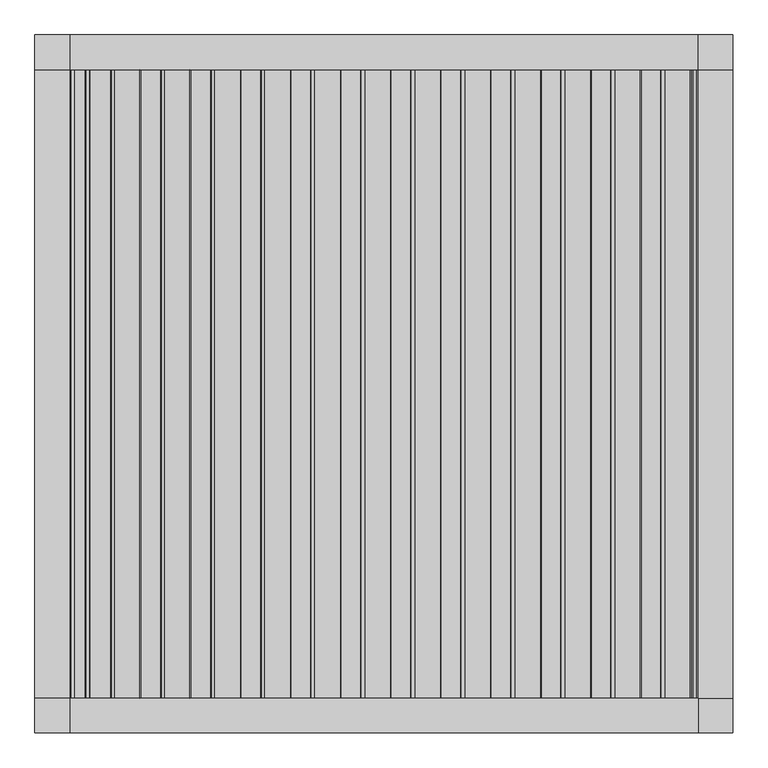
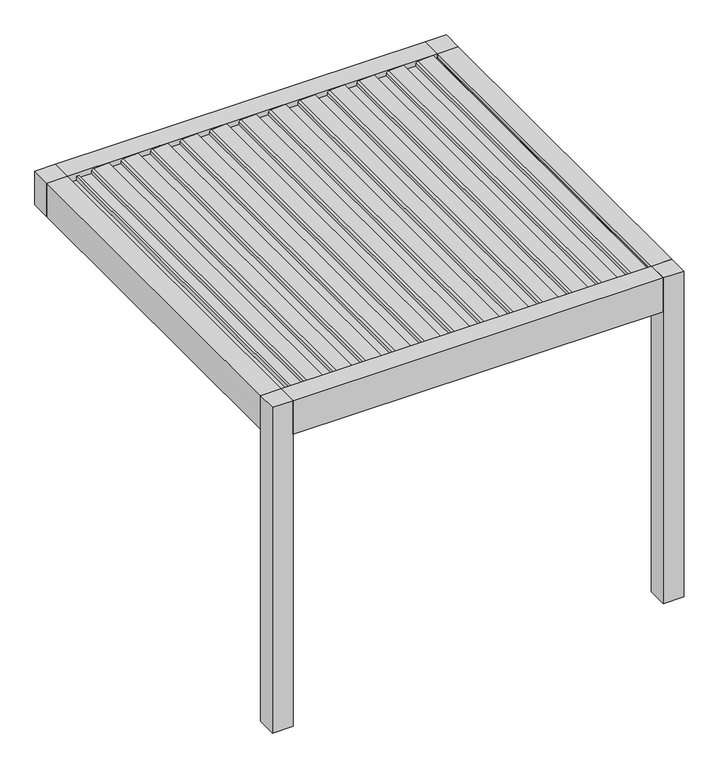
"""IFC4 building model written with IfcOpenShell, lengths in millimetres: proxy geometry, Renson_Camargue_Facade-Mounted_Patio covers : Renson_Camargue_Facade-Mounted_Patio covers."""

from ifc_helpers import new_model, si_unit, point, frame, frame_2d, origin, origin_with_axes, place, context, project, spatial, polyline, circle_curve, trimmed, segment, composite_curve, outline, extrude, source, transform, mapped, element, save


def generic_models_66309c40(model_context):
    return source(origin(), model_context, "Body", "SweptSolid", [
        extrude(outline(composite_curve([segment(polyline([(2458.35, 1073.7289238), (2486.01198, 1076.1490335), (2487.3970364, 1104.984284), (2506.8911096, 1101.5469529), (2501.6075693, 991.549838)]), True, "CONTINUOUS"), segment(trimmed(circle_curve(frame_2d((2486.6248435, 992.26951)), 15.0), [point((2501.6075693, 991.549838))], [point((2489.2295662, 977.4973937))], False, "CARTESIAN"), True, "CONTINUOUS"), segment(polyline([(2489.2295662, 977.4973937), (2470.0, 974.1067023), (2470.0, 886.3709263), (2487.0788237, 883.3594689), (2486.3450182, 868.0824984), (2458.35, 865.6332517), (2458.35, 1073.7289238)]), True, "CONTINUOUS")], self_intersect=False)), frame((0.0, -1350.0, 0.0), z_axis=(0.0, 1.0, 0.0), x_axis=(0.0, 0.0, 1.0)), (0.0, 0.0, 1.0), 2700.0),
        extrude(outline(composite_curve([segment(polyline([(2458.35, 858.7132078), (2486.01198, 861.1333174), (2487.3970364, 889.9685679), (2506.8911096, 886.5312368), (2501.6075693, 776.534122)]), True, "CONTINUOUS"), segment(trimmed(circle_curve(frame_2d((2486.6248435, 777.2537939)), 15.0), [point((2501.6075693, 776.534122))], [point((2489.2295662, 762.4816776))], False, "CARTESIAN"), True, "CONTINUOUS"), segment(polyline([(2489.2295662, 762.4816776), (2470.0, 759.0909863), (2470.0, 671.3552102), (2487.0788237, 668.3437528), (2486.3450182, 653.0667824), (2458.35, 650.6175356), (2458.35, 858.7132078)]), True, "CONTINUOUS")], self_intersect=False)), frame((0.0, -1350.0, 0.0), z_axis=(0.0, 1.0, 0.0), x_axis=(0.0, 0.0, 1.0)), (0.0, 0.0, 1.0), 2700.0),
        extrude(outline(composite_curve([segment(polyline([(2458.35, 643.6974917), (2486.01198, 646.1176014), (2487.3970364, 674.9528519), (2506.8911096, 671.5155208), (2501.6075693, 561.5184059)]), True, "CONTINUOUS"), segment(trimmed(circle_curve(frame_2d((2486.6248435, 562.2380779)), 15.0), [point((2501.6075693, 561.5184059))], [point((2489.2295662, 547.4659616))], False, "CARTESIAN"), True, "CONTINUOUS"), segment(polyline([(2489.2295662, 547.4659616), (2470.0, 544.0752702), (2470.0, 456.3394942), (2487.0788237, 453.3280368), (2486.3450182, 438.0510663), (2458.35, 435.6018196), (2458.35, 643.6974917)]), True, "CONTINUOUS")], self_intersect=False)), frame((0.0, -1350.0, 0.0), z_axis=(0.0, 1.0, 0.0), x_axis=(0.0, 0.0, 1.0)), (0.0, 0.0, 1.0), 2700.0),
        extrude(outline(composite_curve([segment(polyline([(2458.35, 428.6817757), (2486.01198, 431.1018854), (2487.3970364, 459.9371358), (2506.8911096, 456.4998047), (2501.6075693, 346.5026899)]), True, "CONTINUOUS"), segment(trimmed(circle_curve(frame_2d((2486.6248435, 347.2223618)), 15.0), [point((2501.6075693, 346.5026899))], [point((2489.2295662, 332.4502455))], False, "CARTESIAN"), True, "CONTINUOUS"), segment(polyline([(2489.2295662, 332.4502455), (2470.0, 329.0595542), (2470.0, 241.3237782), (2487.0788237, 238.3123207), (2486.3450182, 223.0353503), (2458.35, 220.5861035), (2458.35, 428.6817757)]), True, "CONTINUOUS")], self_intersect=False)), frame((0.0, -1350.0, 0.0), z_axis=(0.0, 1.0, 0.0), x_axis=(0.0, 0.0, 1.0)), (0.0, 0.0, 1.0), 2700.0),
        extrude(outline(composite_curve([segment(polyline([(2458.35, 213.6660597), (2486.01198, 216.0861693), (2487.3970364, 244.9214198), (2506.8911096, 241.4840887), (2501.6075693, 131.4869738)]), True, "CONTINUOUS"), segment(trimmed(circle_curve(frame_2d((2486.6248435, 132.2066458)), 15.0), [point((2501.6075693, 131.4869738))], [point((2489.2295662, 117.4345295))], False, "CARTESIAN"), True, "CONTINUOUS"), segment(polyline([(2489.2295662, 117.4345295), (2470.0, 114.0438381), (2470.0, 26.3080621), (2487.0788237, 23.2966047), (2486.3450182, 8.0196342), (2458.35, 5.5703875), (2458.35, 213.6660597)]), True, "CONTINUOUS")], self_intersect=False)), frame((0.0, -1350.0, 0.0), z_axis=(0.0, 1.0, 0.0), x_axis=(0.0, 0.0, 1.0)), (0.0, 0.0, 1.0), 2700.0),
        extrude(outline(composite_curve([segment(polyline([(2458.35, -1.3496564), (2486.01198, 1.0704533), (2487.3970364, 29.9057037), (2506.8911096, 26.4683726), (2501.6075693, -83.5287422)]), True, "CONTINUOUS"), segment(trimmed(circle_curve(frame_2d((2486.6248435, -82.8090703)), 15.0), [point((2501.6075693, -83.5287422))], [point((2489.2295662, -97.5811866))], False, "CARTESIAN"), True, "CONTINUOUS"), segment(polyline([(2489.2295662, -97.5811866), (2470.0, -100.9718779), (2470.0, -188.7076539), (2487.0788237, -191.7191114), (2486.3450182, -206.9960818), (2458.35, -209.4453286), (2458.35, -1.3496564)]), True, "CONTINUOUS")], self_intersect=False)), frame((0.0, -1350.0, 0.0), z_axis=(0.0, 1.0, 0.0), x_axis=(0.0, 0.0, 1.0)), (0.0, 0.0, 1.0), 2700.0),
        extrude(outline(composite_curve([segment(polyline([(2458.35, -216.3653724), (2486.01198, -213.9452628), (2487.3970364, -185.1100123), (2506.8911096, -188.5473434), (2501.6075693, -298.5444582)]), True, "CONTINUOUS"), segment(trimmed(circle_curve(frame_2d((2486.6248435, -297.8247863)), 15.0), [point((2501.6075693, -298.5444582))], [point((2489.2295662, -312.5969026))], False, "CARTESIAN"), True, "CONTINUOUS"), segment(polyline([(2489.2295662, -312.5969026), (2470.0, -315.987594), (2470.0, -403.72337), (2487.0788237, -406.7348274), (2486.3450182, -422.0117979), (2458.35, -424.4610446), (2458.35, -216.3653724)]), True, "CONTINUOUS")], self_intersect=False)), frame((0.0, -1350.0, 0.0), z_axis=(0.0, 1.0, 0.0), x_axis=(0.0, 0.0, 1.0)), (0.0, 0.0, 1.0), 2700.0),
        extrude(outline(composite_curve([segment(polyline([(2458.35, -431.3810885), (2486.01198, -428.9609788), (2487.3970364, -400.1257284), (2506.8911096, -403.5630594), (2501.6075693, -513.5601743)]), True, "CONTINUOUS"), segment(trimmed(circle_curve(frame_2d((2486.6248435, -512.8405024)), 15.0), [point((2501.6075693, -513.5601743))], [point((2489.2295662, -527.6126187))], False, "CARTESIAN"), True, "CONTINUOUS"), segment(polyline([(2489.2295662, -527.6126187), (2470.0, -531.00331), (2470.0, -618.739086), (2487.0788237, -621.7505434), (2486.3450182, -637.0275139), (2458.35, -639.4767606), (2458.35, -431.3810885)]), True, "CONTINUOUS")], self_intersect=False)), frame((0.0, -1350.0, 0.0), z_axis=(0.0, 1.0, 0.0), x_axis=(0.0, 0.0, 1.0)), (0.0, 0.0, 1.0), 2700.0),
        extrude(outline(composite_curve([segment(polyline([(2458.35, -646.3968045), (2486.01198, -643.9766949), (2487.3970364, -615.1414444), (2506.8911096, -618.5787755), (2501.6075693, -728.5758903)]), True, "CONTINUOUS"), segment(trimmed(circle_curve(frame_2d((2486.6248435, -727.8562184)), 15.0), [point((2501.6075693, -728.5758903))], [point((2489.2295662, -742.6283347))], False, "CARTESIAN"), True, "CONTINUOUS"), segment(polyline([(2489.2295662, -742.6283347), (2470.0, -746.019026), (2470.0, -833.7548021), (2487.0788237, -836.7662595), (2486.3450182, -852.04323), (2458.35, -854.4924767), (2458.35, -646.3968045)]), True, "CONTINUOUS")], self_intersect=False)), frame((0.0, -1350.0, 0.0), z_axis=(0.0, 1.0, 0.0), x_axis=(0.0, 0.0, 1.0)), (0.0, 0.0, 1.0), 2700.0),
        extrude(outline(composite_curve([segment(polyline([(2458.35, -861.4125206), (2486.01198, -858.9924109), (2487.3970364, -830.1571605), (2506.8911096, -833.5944915), (2501.6075693, -943.5916064)]), True, "CONTINUOUS"), segment(trimmed(circle_curve(frame_2d((2486.6248435, -942.8719345)), 15.0), [point((2501.6075693, -943.5916064))], [point((2489.2295662, -957.6440508))], False, "CARTESIAN"), True, "CONTINUOUS"), segment(polyline([(2489.2295662, -957.6440508), (2470.0, -961.0347421), (2470.0, -1048.7705181), (2487.0788237, -1051.7819755), (2486.3450182, -1067.058946), (2458.35, -1069.5081927), (2458.35, -861.4125206)]), True, "CONTINUOUS")], self_intersect=False)), frame((0.0, -1350.0, 0.0), z_axis=(0.0, 1.0, 0.0), x_axis=(0.0, 0.0, 1.0)), (0.0, 0.0, 1.0), 2700.0),
        extrude(outline(composite_curve([segment(polyline([(2458.35, 1288.7446399), (2486.01198, 1291.1647495), (2487.3970364, 1320.0), (2506.8911096, 1316.5626689), (2501.6075693, 1206.5655541)]), True, "CONTINUOUS"), segment(trimmed(circle_curve(frame_2d((2486.6248435, 1207.285226)), 15.0), [point((2501.6075693, 1206.5655541))], [point((2489.2295662, 1192.5131097))], False, "CARTESIAN"), True, "CONTINUOUS"), segment(polyline([(2489.2295662, 1192.5131097), (2470.0, 1189.1224184), (2470.0, 1101.3866423), (2487.0788237, 1098.3751849), (2486.3450182, 1083.0982144), (2458.35, 1080.6489677), (2458.35, 1288.7446399)]), True, "CONTINUOUS")], self_intersect=False)), frame((0.0, -1350.0, 0.0), z_axis=(0.0, 1.0, 0.0), x_axis=(0.0, 0.0, 1.0)), (0.0, 0.0, 1.0), 2700.0),
        extrude(outline(composite_curve([segment(polyline([(2458.35, -1076.4282366), (2486.01198, -1074.008127), (2487.3970364, -1045.1728765), (2506.8911096, -1048.6102076), (2501.6075693, -1158.6073224)]), True, "CONTINUOUS"), segment(trimmed(circle_curve(frame_2d((2486.6248435, -1157.8876505)), 15.0), [point((2501.6075693, -1158.6073224))], [point((2489.2295662, -1172.6597668))], False, "CARTESIAN"), True, "CONTINUOUS"), segment(polyline([(2489.2295662, -1172.6597668), (2470.0, -1176.0504581), (2470.0, -1263.7862342), (2487.0788237, -1266.7976916), (2486.3450182, -1282.0746621), (2458.35, -1284.5239088), (2458.35, -1076.4282366)]), True, "CONTINUOUS")], self_intersect=False)), frame((0.0, -1350.0, 0.0), z_axis=(0.0, 1.0, 0.0), x_axis=(0.0, 0.0, 1.0)), (0.0, 0.0, 1.0), 2700.0),
        extrude(outline(polyline([(-1350.0, -1500.0), (-1500.0, -1500.0), (-1500.0, -1350.0), (-1350.0, -1350.0), (-1350.0, -1500.0)])), origin_with_axes(), (0.0, 0.0, 1.0), 2510.0),
        extrude(outline(polyline([(-1350.0, 1500.0), (-1350.0, 1350.0), (-1500.0, 1350.0), (-1500.0, 1500.0), (-1350.0, 1500.0)])), frame((0.0, 0.0, 2250.0), z_axis=(0.0, 0.0, 1.0), x_axis=(1.0, 0.0, 0.0)), (0.0, 0.0, 1.0), 260.0),
        extrude(outline(polyline([(1500.0, 1500.0), (1500.0, 1350.0), (1350.0, 1350.0), (1350.0, 1500.0), (1500.0, 1500.0)])), frame((0.0, 0.0, 2250.0), z_axis=(0.0, 0.0, 1.0), x_axis=(1.0, 0.0, 0.0)), (0.0, 0.0, 1.0), 260.0),
        extrude(outline(polyline([(2441.6559373, -1350.0), (2441.6559373, -1290.0), (2455.6555802, -1286.2487113), (2455.6555802, -1329.5940945), (2471.400763, -1345.0), (2479.2449277, -1345.0), (2479.6823598, -1350.0), (2441.6559373, -1350.0)])), frame((0.0, -1350.0, 0.0), z_axis=(0.0, 1.0, 0.0), x_axis=(0.0, 0.0, 1.0)), (0.0, 0.0, 1.0), 2700.0),
        extrude(outline(polyline([(-1350.0, 1350.0), (-1350.0, -1350.0), (-1500.0, -1350.0), (-1500.0, 1350.0), (-1350.0, 1350.0)])), frame((0.0, 0.0, 2250.0), z_axis=(0.0, 0.0, 1.0), x_axis=(1.0, 0.0, 0.0)), (0.0, 0.0, 1.0), 260.0),
        extrude(outline(polyline([(2510.0, 1500.0), (2510.0, 1350.0), (2479.6904658, 1350.0), (2479.2449277, 1345.0), (2471.400763, 1345.0), (2455.6555802, 1329.2544156), (2455.6555802, 1319.9090324), (2441.6559373, 1323.6603211), (2441.6559373, 1350.0), (2250.0, 1350.0), (2250.0, 1500.0), (2510.0, 1500.0)])), frame((0.0, -1350.0, 0.0), z_axis=(0.0, 1.0, 0.0), x_axis=(0.0, 0.0, 1.0)), (0.0, 0.0, 1.0), 2700.0),
        extrude(outline(polyline([(1350.0, 2510.0), (1500.0, 2510.0), (1500.0, 2250.0), (1280.0000001, 2250.0), (1280.0000001, 2322.0), (1350.0, 2322.0), (1350.0, 2510.0)])), frame((-1350.0, 0.0, 0.0), z_axis=(1.0, 0.0, 0.0), x_axis=(0.0, 1.0, 0.0)), (0.0, 0.0, 1.0), 2700.0),
        extrude(outline(polyline([(-1500.0, 2250.0), (-1500.0, 2510.0), (-1350.0, 2510.0), (-1350.0, 2322.0), (-1280.0000001, 2322.0), (-1280.0000001, 2250.0), (-1500.0, 2250.0)])), frame((-1350.0, 0.0, 0.0), z_axis=(1.0, 0.0, 0.0), x_axis=(0.0, 1.0, 0.0)), (0.0, 0.0, 1.0), 2700.0),
        extrude(outline(polyline([(1500.0, -1500.0), (1350.0, -1500.0), (1350.0, -1350.0), (1500.0, -1350.0), (1500.0, -1500.0)])), origin_with_axes(), (0.0, 0.0, 1.0), 2510.0),
    ])


if __name__ == "__main__":
    model = new_model("IFC4")
    model_context = context("Model", 3, world=origin())
    ifc_project = project(units=[si_unit("LENGTHUNIT", "METRE", prefix="MILLI")], contexts=[model_context])
    site = spatial("IfcSite", under=ifc_project)
    building = spatial("IfcBuilding", under=site)
    placement = place(None, origin())
    generic_models_shape = generic_models_66309c40(model_context)
    element("IfcBuildingElementProxy", 1, Name="Renson_Camargue_Facade-Mounted_Patio covers : Renson_Camargue_Facade-Mounted_Patio covers", ObjectType="Renson_Camargue_Facade-Mounted_Patio covers : Renson_Camargue_Facade-Mounted_Patio covers", at=placement, inside=building, context=model_context, shape_type="MappedRepresentation", body=[
        mapped(generic_models_shape, transform((0.0, 0.0, 0.0), x_axis=(1.0, 0.0, 0.0), y_axis=(0.0, 1.0, 0.0), z_axis=(0.0, 0.0, 1.0))),
    ])
    save(model, "model.ifc")
